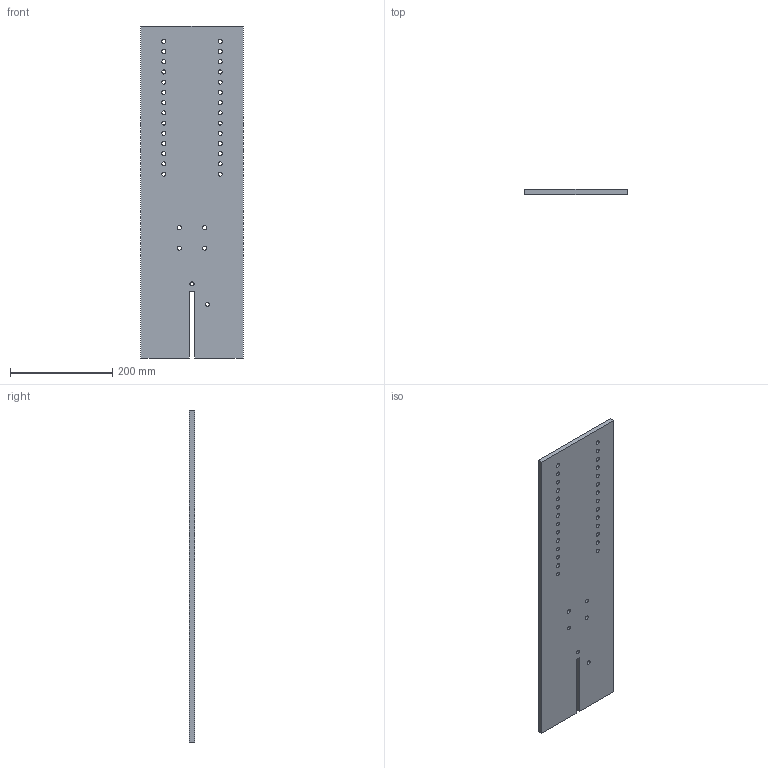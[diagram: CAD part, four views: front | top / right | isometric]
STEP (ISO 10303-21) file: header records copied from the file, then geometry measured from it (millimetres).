
FILE_DESCRIPTION(/* description */ (''),/* implementation_level */ '2;1');
FILE_NAME(/* name */ 'C:\Users\Jaime\Desktop\Universidad\MÁSTER ING. INDUSTRIAL\TFM\CD\Pieza_BASE.stp',/* time_stamp */ '2018-02-15T23:58:17+01:00',/* author */ ('Jaime'),/* organization */ (''),/* preprocessor_version */ 'ST-DEVELOPER v16.5',/* originating_system */ 'Autodesk Inventor 2017',/* authorisation */ '');
FILE_SCHEMA (('AUTOMOTIVE_DESIGN { 1 0 10303 214 3 1 1 }'));
Length unit declared in the file: millimetre
Products named in the file (1): Pieza_BASE
Bounding box: 200 x 10 x 650 mm (x, y, z)
Volume: 1269909.7 mm3; surface area: 282127.1 mm2
Topology: 1 solids, 1 shells, 44 faces, 126 edges, 84 vertices
Faces by surface type: cylinder 34, plane 10
Full cylindrical faces by diameter (mm): 8 x34
Entity records: 1468 total; most frequent: DIRECTION 250, CARTESIAN_POINT 221, ORIENTED_EDGE 184, EDGE_LOOP 146, AXIS2_PLACEMENT_3D 113, FACE_BOUND 102, EDGE_CURVE 92, VERTEX_POINT 84
